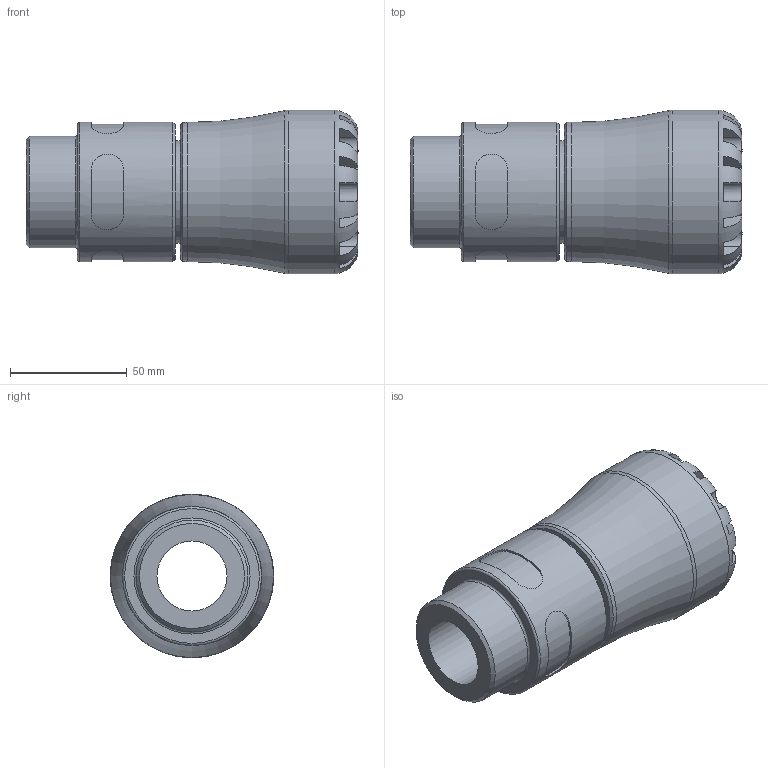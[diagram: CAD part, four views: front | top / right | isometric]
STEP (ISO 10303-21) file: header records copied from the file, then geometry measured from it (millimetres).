
FILE_DESCRIPTION(/* description */ ('PLASSON MALE ADAPTOR 40X1.1/2" SERIES 1'),/* implementation_level */ '2;1');
FILE_NAME(/* name */ 'C:\Dropbox\KIMPROJECTS-Inventor 2019\99-16-3568-Processing\S1\10N20\stp\10N200040015_10N2G0040015.stp',/* time_stamp */ '2024-03-12T13:19:48+01:00',/* author */ ('KIM'),/* organization */ (''),/* preprocessor_version */ 'ST-DEVELOPER v17.2',/* originating_system */ 'Autodesk Inventor 2019',/* authorisation */ '');
FILE_SCHEMA (('AUTOMOTIVE_DESIGN { 1 0 10303 214 3 1 1 }'));
Length unit declared in the file: millimetre
Products named in the file (1): 10N200040015_10N2G0040015
Bounding box: 142 x 70 x 70 mm (x, y, z)
Volume: 266454 mm3; surface area: 51238.3 mm2
Topology: 1 solids, 1 shells, 106 faces, 279 edges, 182 vertices
Faces by surface type: plane 62, cylinder 35, torus 5, cone 4
Full cylindrical faces by diameter (mm): 30 x1, 40 x1, 44 x1, 47.803 x1, 59.5 x2, 70 x1
Entity records: 4222 total; most frequent: CARTESIAN_POINT 1488, ORIENTED_EDGE 558, DIRECTION 552, EDGE_CURVE 279, AXIS2_PLACEMENT_3D 230, VERTEX_POINT 182, CIRCLE 123, EDGE_LOOP 115
